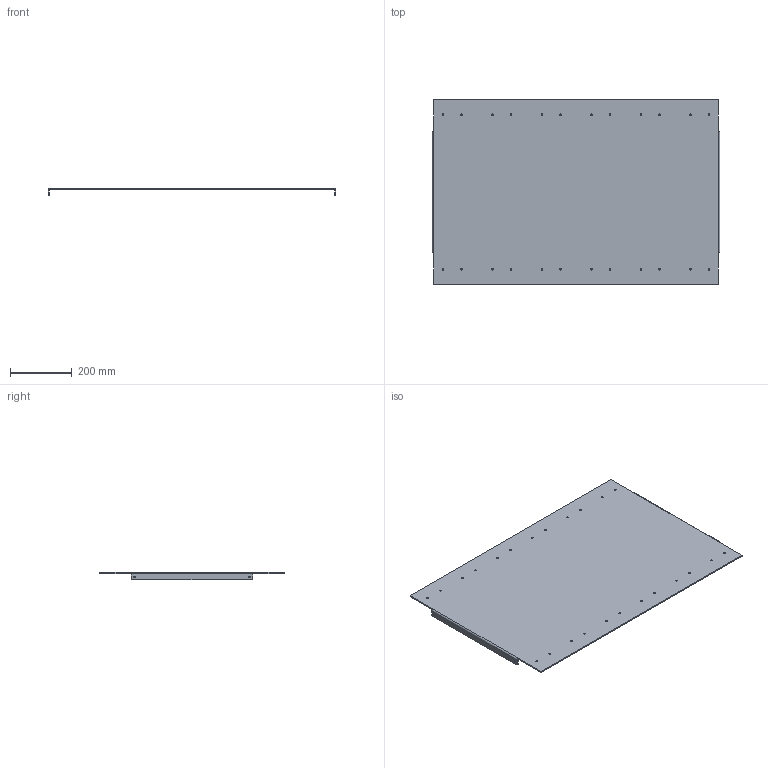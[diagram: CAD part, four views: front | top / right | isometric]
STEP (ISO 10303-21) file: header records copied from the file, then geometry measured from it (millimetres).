
FILE_DESCRIPTION(('HOOPS Exchange Step'),'2;1');
FILE_NAME('/private/var/mobile/Containers/Data/Application/E4481369-A8C6-45C6-A958-B1853E49479D/tmp/export/temp_export','2021-04-12T21:00:25+00:00',('mobile'),('Shapr3D Limited'),'HOOPS Exchange 2020.2','Shapr3D','Authorized');
FILE_SCHEMA( ('AP203_CONFIGURATION_CONTROLLED_3D_DESIGN_OF_MECHANICAL_PARTS_AND_ASSEMBLIES_MIM_LF') );
Length unit declared in the file: millimetre
Products named in the file (2): 0; /private/var/mobile/Containers/Data/Application/E4481369-A8C6-45C6-A958-B1853E49479D/tmp/4E254EE7-5720-402B-8F38-3B24AA3E1A09.tmp
Assembly tree (1 placements, depth 2):
  /private/var/mobile/Containers/Data/Application/E4481369-A8C6-45C6-A958-B1853E49479D/tmp/4E254EE7-5720-402B-8F38-3B24AA3E1A09.tmp
    0
Bounding box: 930 x 600 x 24 mm (x, y, z)
Volume: 2279976.6 mm3; surface area: 1154343.6 mm2
Topology: 1 solids, 1 shells, 58 faces, 192 edges, 136 vertices
Faces by surface type: cylinder 40, plane 18
Full cylindrical faces by diameter (mm): 5.2 x28
Entity records: 2359 total; most frequent: DIRECTION 426, CARTESIAN_POINT 389, ORIENTED_EDGE 384, EDGE_CURVE 192, AXIS2_PLACEMENT_3D 173, VERTEX_POINT 136, EDGE_LOOP 114, FACE_BOUND 114
